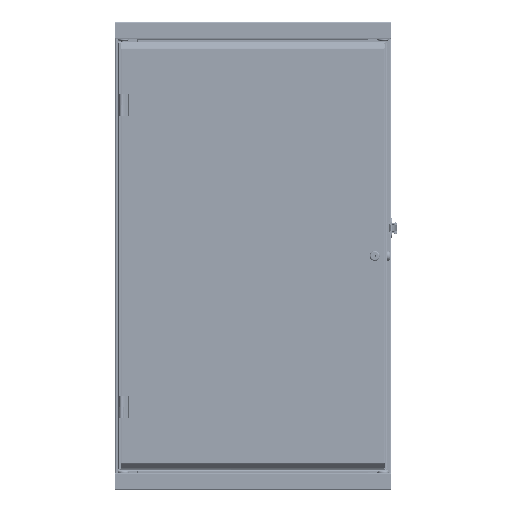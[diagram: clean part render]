
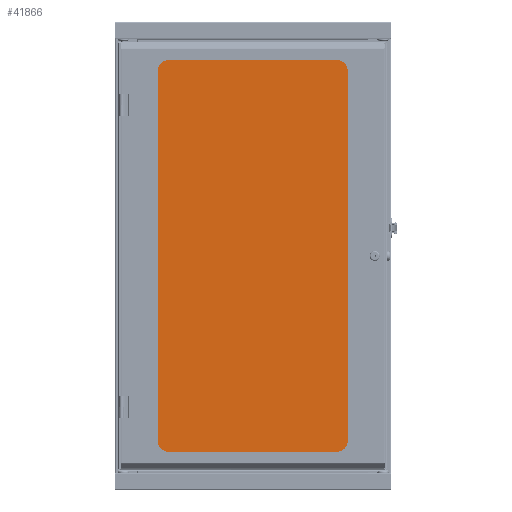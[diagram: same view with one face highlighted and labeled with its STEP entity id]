
A CAD part, front view. The second image highlights one B-rep face of the part: STEP entity #41866.
In plain terms, the highlighted planar face has unit normal (0, -1, 0).
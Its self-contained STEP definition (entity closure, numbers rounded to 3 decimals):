
#3203=LINE('',#69436,#7005);
#3207=LINE('',#69445,#7009);
#3210=LINE('',#69451,#7012);
#3213=LINE('',#69457,#7015);
#7005=VECTOR('',#55486,1000.);
#7009=VECTOR('',#55492,1000.);
#7012=VECTOR('',#55497,1000.);
#7015=VECTOR('',#55502,1000.);
#17518=ORIENTED_EDGE('',*,*,#25072,.T.);
#17519=ORIENTED_EDGE('',*,*,#25076,.T.);
#17520=ORIENTED_EDGE('',*,*,#25079,.T.);
#17521=ORIENTED_EDGE('',*,*,#25082,.T.);
#25072=EDGE_CURVE('',#29615,#29616,#3203,.T.);
#25076=EDGE_CURVE('',#29616,#29619,#3207,.T.);
#25079=EDGE_CURVE('',#29619,#29621,#3210,.T.);
#25082=EDGE_CURVE('',#29621,#29615,#3213,.T.);
#29615=VERTEX_POINT('',#69437);
#29616=VERTEX_POINT('',#69438);
#29619=VERTEX_POINT('',#69446);
#29621=VERTEX_POINT('',#69452);
#34800=EDGE_LOOP('',(#17518,#17519,#17520,#17521));
#37997=FACE_BOUND('',#34800,.T.);
#39792=PLANE('',#45833);
#41866=ADVANCED_FACE('',(#37997),#39792,.T.);
#45833=AXIS2_PLACEMENT_3D('',#69460,#55506,#55507);
#55486=DIRECTION('',(0.,0.,-1.));
#55492=DIRECTION('',(1.,0.,0.));
#55497=DIRECTION('',(0.,0.,1.));
#55502=DIRECTION('',(-1.,0.,0.));
#55506=DIRECTION('',(0.,-1.,0.));
#55507=DIRECTION('',(0.,0.,-1.));
#69436=CARTESIAN_POINT('',(-228.6,0.,463.55));
#69437=CARTESIAN_POINT('',(-228.6,0.,463.55));
#69438=CARTESIAN_POINT('',(-228.6,0.,-463.55));
#69445=CARTESIAN_POINT('',(-228.6,0.,-463.55));
#69446=CARTESIAN_POINT('',(228.6,0.,-463.55));
#69451=CARTESIAN_POINT('',(228.6,0.,-463.55));
#69452=CARTESIAN_POINT('',(228.6,0.,463.55));
#69457=CARTESIAN_POINT('',(228.6,0.,463.55));
#69460=CARTESIAN_POINT('',(-228.6,0.,-463.55));
